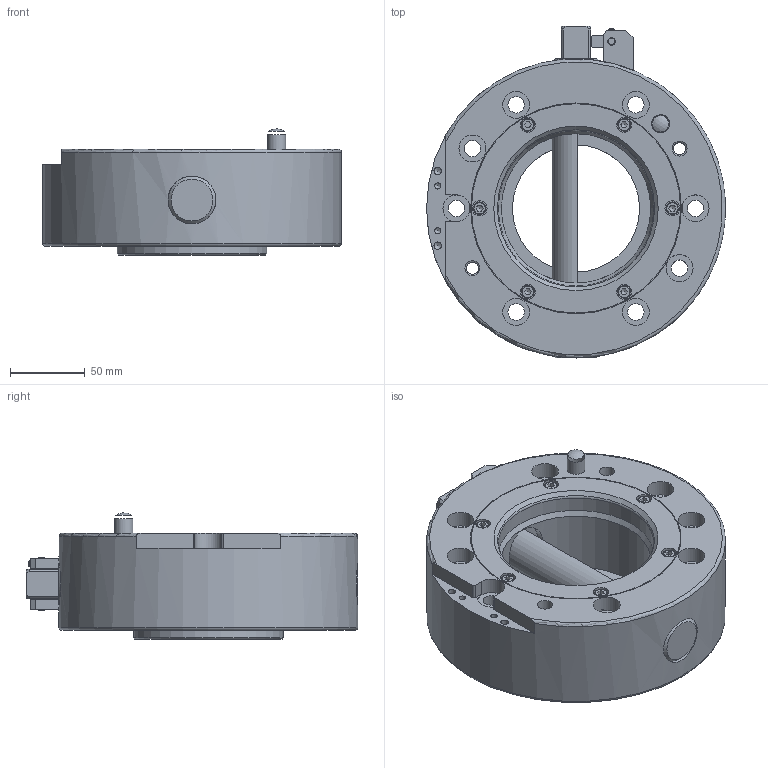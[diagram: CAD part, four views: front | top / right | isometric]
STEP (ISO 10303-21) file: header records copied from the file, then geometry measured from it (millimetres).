
FILE_DESCRIPTION(/* description */ (''),/* implementation_level */ '2;1');
FILE_NAME(/* name */ '\\dc01\daten\CAD\Standard\Daten\3D-Datenbank\Webseite 2020\SWS\200\G-SWS200-2OEN.stp',/* time_stamp */ '2020-05-05T13:17:08+02:00',/* author */ ('ysplieth'),/* organization */ (''),/* preprocessor_version */ 'ST-DEVELOPER v17',/* originating_system */ 'Autodesk Inventor 2018',/* authorisation */ '');
FILE_SCHEMA (('AUTOMOTIVE_DESIGN { 1 0 10303 214 3 1 1 }'));
Length unit declared in the file: millimetre
Products named in the file (1): G-SWS200-2OEN
Bounding box: 200 x 222 x 84.33 mm (x, y, z)
Volume: 1515065.7 mm3; surface area: 238078.1 mm2
Topology: 17 solids, 17 shells, 347 faces, 955 edges, 669 vertices
Faces by surface type: plane 158, cylinder 111, cone 56, torus 20, sphere 2
Full cylindrical faces by diameter (mm): 3.242 x2, 3.3 x1, 4 x3, 4.134 x8, 4.5 x2, 5 x11, 5.1 x2, 5.5 x7, 6.647 x1, 7 x2, 8 x5, 8.5 x6, 9 x1, 10 x13, 11 x8, 12 x2, 18 x8, 32 x6, 85 x1, 100 x2, 104 x1, 120 x2, 140 x1, 141 x1, 200 x1
Entity records: 12501 total; most frequent: CARTESIAN_POINT 2971, DIRECTION 1954, ORIENTED_EDGE 1866, EDGE_CURVE 933, AXIS2_PLACEMENT_3D 789, VERTEX_POINT 669, EDGE_LOOP 460, CIRCLE 441
